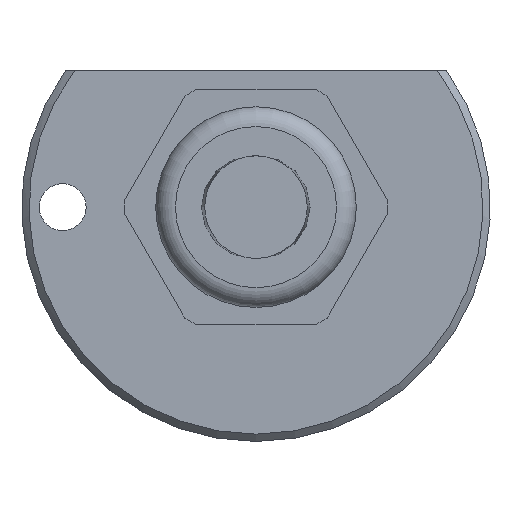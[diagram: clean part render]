
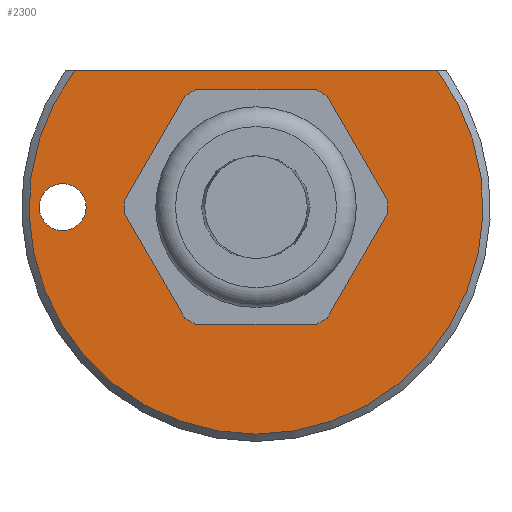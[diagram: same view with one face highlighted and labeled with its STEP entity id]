
A CAD part, left-side view. The second image highlights one B-rep face of the part: STEP entity #2300.
In plain terms, the highlighted planar face has unit normal (-1, 0, 0).
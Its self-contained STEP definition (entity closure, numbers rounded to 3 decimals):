
#702=VECTOR('',#3594,1.);
#826=LINE('',#2589,#702);
#950=PLANE('',#2416);
#995=CIRCLE('',#2414,15.5);
#997=CIRCLE('',#2417,1.6);
#998=CIRCLE('',#2418,5.25);
#1057=VERTEX_POINT('',#2578);
#1058=VERTEX_POINT('',#2580);
#1060=VERTEX_POINT('',#2588);
#1061=VERTEX_POINT('',#2591);
#1237=EDGE_CURVE('',#1057,#1058,#995,.T.);
#1240=EDGE_CURVE('',#1060,#1060,#997,.T.);
#1241=EDGE_CURVE('',#1057,#1058,#826,.T.);
#1242=EDGE_CURVE('',#1061,#1061,#998,.T.);
#1500=ORIENTED_EDGE('',*,*,#1240,.T.);
#1501=ORIENTED_EDGE('',*,*,#1237,.F.);
#1502=ORIENTED_EDGE('',*,*,#1241,.T.);
#1503=ORIENTED_EDGE('',*,*,#1242,.T.);
#2017=EDGE_LOOP('',(#1500));
#2018=EDGE_LOOP('',(#1501,#1502));
#2019=EDGE_LOOP('',(#1503));
#2158=FACE_BOUND('',#2017,.T.);
#2159=FACE_BOUND('',#2018,.T.);
#2160=FACE_BOUND('',#2019,.T.);
#2300=ADVANCED_FACE('',(#2158,#2159,#2160),#950,.F.);
#2414=AXIS2_PLACEMENT_3D('',#2579,#3587,#3588);
#2416=AXIS2_PLACEMENT_3D('',#2586,#3591,$);
#2417=AXIS2_PLACEMENT_3D('',#2587,#3592,#3593);
#2418=AXIS2_PLACEMENT_3D('',#2590,#3595,#3596);
#2578=CARTESIAN_POINT('',(-20.,-12.379,9.327));
#2579=CARTESIAN_POINT('',(-20.,0.,0.));
#2580=CARTESIAN_POINT('',(-20.,12.379,9.327));
#2586=CARTESIAN_POINT('',(-20.,0.,0.));
#2587=CARTESIAN_POINT('',(-20.,13.2,0.));
#2588=CARTESIAN_POINT('',(-20.,14.8,0.));
#2589=CARTESIAN_POINT('',(-20.,0.,9.327));
#2590=CARTESIAN_POINT('',(-20.,0.,0.));
#2591=CARTESIAN_POINT('',(-20.,5.25,0.));
#3587=DIRECTION('',(1.,0.,0.));
#3588=DIRECTION('',(0.,0.,-15.5));
#3591=DIRECTION('',(1.,0.,0.));
#3592=DIRECTION('',(1.,0.,0.));
#3593=DIRECTION('',(0.,1.6,0.));
#3594=DIRECTION('',(0.,1.,0.));
#3595=DIRECTION('',(1.,0.,0.));
#3596=DIRECTION('',(0.,5.25,0.));
